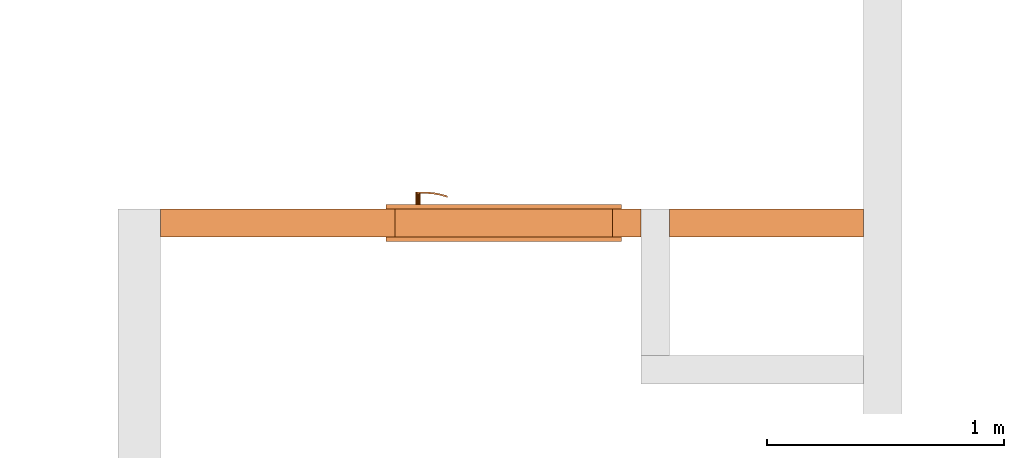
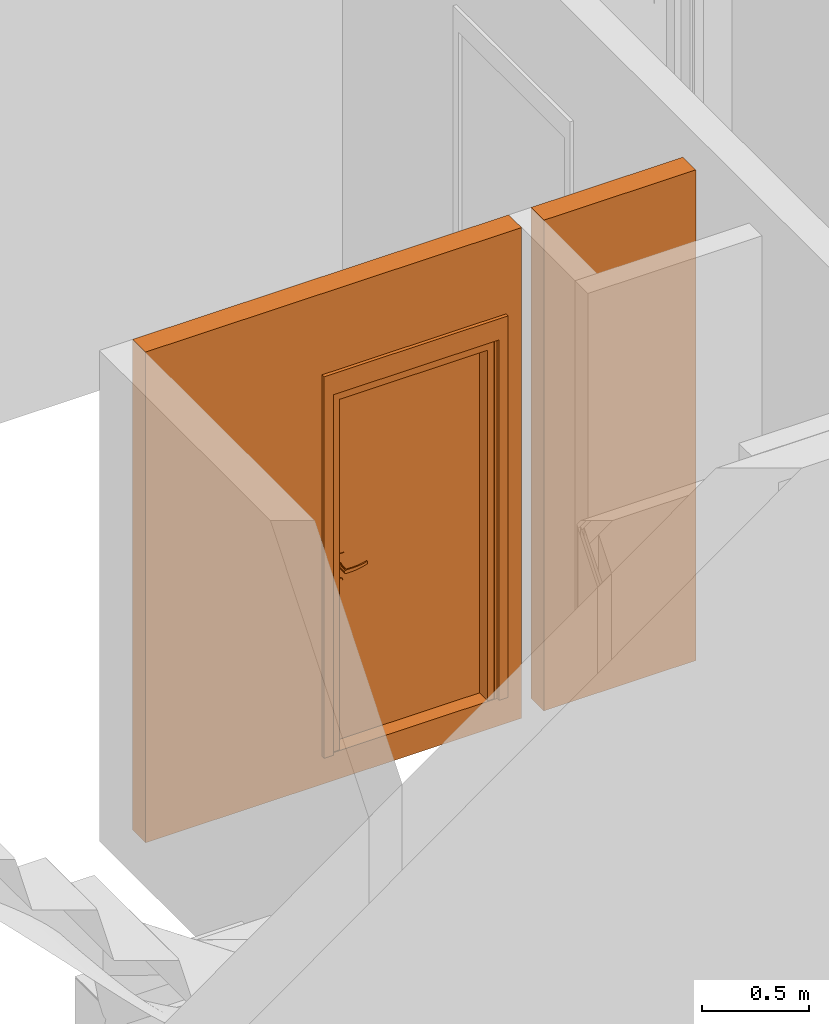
# One storey, part 35 of 61: 2 proxies, 1 opening.
"""IFC2X3 building model written with IfcOpenShell, lengths in millimetres."""

from ifc_helpers import new_model, entity, si_unit, converted_unit, derived_unit, money_unit, direction, frame, origin_with_axes, origin_2d_with_axis, place, context, subcontext, project, spatial, rectangle, extrude, open_shell, faceted_brep, surface_model, source, transform, mapped, material, type_object, element, fill, save


model = new_model("IFC2X3")

# Units and contexts
model_context = context("Model", 3, precision=0.01, world=origin_with_axes(), true_north=direction((0.34421633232, 0.938890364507)))
body_context = subcontext(model_context, "Body", "Model", "MODEL_VIEW")
ifc_project = project(units=[si_unit("LENGTHUNIT", "METRE", prefix="MILLI"), si_unit("AREAUNIT", "SQUARE_METRE"), si_unit("VOLUMEUNIT", "CUBIC_METRE"), converted_unit("PLANEANGLEUNIT", "DEGREE", entity("IfcPlaneAngleMeasure", 0.0174532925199), si_unit("PLANEANGLEUNIT", "RADIAN"), dimensions=[0, 0, 0, 0, 0, 0, 0]), si_unit("SOLIDANGLEUNIT", "STERADIAN"), money_unit("USD"), converted_unit("TIMEUNIT", "Year", entity("IfcTimeMeasure", 31556926.0), si_unit("TIMEUNIT", "SECOND"), dimensions=[0, 0, 1, 0, 0, 0, 0]), si_unit("MASSUNIT", "GRAM", prefix="KILO"), si_unit("THERMODYNAMICTEMPERATUREUNIT", "DEGREE_CELSIUS"), si_unit("LUMINOUSINTENSITYUNIT", "LUMEN"), si_unit("ENERGYUNIT", "JOULE", prefix="MEGA"), derived_unit("THERMALCONDUCTANCEUNIT", [(si_unit("POWERUNIT", "WATT"), 1), (si_unit("LENGTHUNIT", "METRE"), -1), (si_unit("THERMODYNAMICTEMPERATUREUNIT", "KELVIN"), -1)]), derived_unit("SPECIFICHEATCAPACITYUNIT", [(si_unit("ENERGYUNIT", "JOULE"), 1), (si_unit("MASSUNIT", "GRAM", prefix="KILO"), -1), (si_unit("THERMODYNAMICTEMPERATUREUNIT", "KELVIN"), -1)]), derived_unit("MASSDENSITYUNIT", [(si_unit("MASSUNIT", "GRAM", prefix="KILO"), 1), (si_unit("VOLUMEUNIT", "CUBIC_METRE"), -1)])], contexts=[model_context])

# Site, building, storey
site_placement = place(None, origin_with_axes())
site = spatial("IfcSite", under=ifc_project, at=site_placement, Name="USTRONIE MORSKIE", CompositionType="ELEMENT")
building_placement = place(site_placement, origin_with_axes())
building = spatial("IfcBuilding", under=site, at=building_placement, Name="Budynek", CompositionType="ELEMENT")
storey_placement = place(building_placement, frame((0.0, 0.0, 13000.0), z_axis=(0.0, 0.0, 1.0), x_axis=(1.0, 0.0, 0.0)))
storey = spatial("IfcBuildingStorey", under=building, at=storey_placement, Name="PIĘTRO 4", CompositionType="ELEMENT", Elevation=13000.0)

# Proxies, opening
ifc_material = material(Name="Bloczki silikatowe")
building_element_proxy_type_1 = type_object("IfcBuildingElementProxyType", Name="Bloczki silikatowe 120", PredefinedType="NOTDEFINED")
proxy_1_placement = place(storey_placement, frame((416017.920919, 741361.180377, -160.0), z_axis=(0.0, 0.0, 1.0), x_axis=(-1.0, 0.0, 0.0)))
proxy_1 = element("IfcBuildingElementProxy", 1, at=proxy_1_placement, inside=storey, type_object=building_element_proxy_type_1, material=ifc_material, Name="SW-04", context=body_context, shape_type="Brep", body=[
    faceted_brep([(900.001794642, 59.9999999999, 0.0), (900.001794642, -59.9999999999, 0.0), (80.0, -59.9999999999, 0.0), (80.0, 59.9999999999, 0.0), (900.001794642, 59.9999999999, 2800.0), (900.001794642, -59.9999999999, 2800.0), (80.0, -59.9999999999, 2800.0), (80.0, 59.9999999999, 2800.0)], [[[0, 1, 2, 3]], [[1, 0, 4, 5]], [[1, 5, 6, 2]], [[7, 3, 2, 6]], [[4, 0, 3, 7]], [[5, 4, 7, 6]]]),
    faceted_brep([(3049.9699557, 59.9999999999, 0.0), (3049.9699557, -59.9999999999, 0.0), (1020.00179464, -59.9999999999, 0.0), (1020.00179464, 59.9999999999, 0.0), (3049.9699557, 59.9999999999, 2800.0), (3049.9699557, -59.9999999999, 2800.0), (1020.00179464, -59.9999999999, 2800.0), (1020.00179464, 59.9999999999, 2800.0)], [[[0, 1, 2, 3]], [[1, 0, 4, 5]], [[1, 5, 6, 2]], [[7, 3, 2, 6]], [[4, 0, 3, 7]], [[5, 4, 7, 6]]]),
])
opening_placement = place(proxy_1_placement, frame((1600.00179464, 0.0, 160.0), z_axis=(0.0, 0.0, 1.0), x_axis=(1.0, 0.0, 0.0)))
opening = element("IfcOpeningElement", 2, at=opening_placement, cuts=proxy_1, Name="Dw.4", context=body_context, shape_type="SweptSolid", body=[
    extrude(rectangle(XDim=920.0, YDim=2070.0, at=origin_2d_with_axis()), frame((0.0, 120.0, 1035.0), z_axis=(0.0, -1.0, 0.0), x_axis=(-1.0, 0.0, 0.0)), (0.0, 0.0, 1.0), 360.0),
    extrude(rectangle(XDim=994.0, YDim=2177.0, at=origin_2d_with_axis()), frame((0.0, 60.0000000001, 1088.5), z_axis=(0.0, -1.0, 0.0), x_axis=(-1.0, 0.0, 0.0)), (0.0, 0.0, -1.0), 120.0),
    extrude(rectangle(XDim=994.0, YDim=2177.0, at=origin_2d_with_axis()), frame((0.0, -59.9999999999, 1088.5), z_axis=(0.0, 1.0, 0.0), x_axis=(-1.0, 0.0, 0.0)), (0.0, 0.0, -1.0), 120.0),
])
building_element_proxy_type_2 = type_object("IfcBuildingElementProxyType", Name="Drzwi 23", PredefinedType="NOTDEFINED")
shared_shape = source(origin_with_axes(), body_context, "Body", "SurfaceModel", [
    faceted_brep([(-460.0, -115.0, 0.0), (-435.0, -115.0, 0.0), (-435.0, -120.0, 0.0), (-460.0, -120.0, 0.0), (-460.0, -115.0, 2070.0), (-435.0, -115.0, 2045.0), (-435.0, -120.0, 2045.0), (-460.0, -120.0, 2070.0)], [[[0, 1, 2, 3]], [[0, 4, 5, 1]], [[1, 5, 6, 2]], [[3, 2, 6, 7]], [[4, 0, 3, 7]], [[5, 4, 7, 6]]]),
    faceted_brep([(460.0, -115.0, 2070.0), (435.0, -115.0, 2045.0), (435.0, -120.0, 2045.0), (460.0, -120.0, 2070.0), (460.0, -115.0, 0.0), (435.0, -115.0, 0.0), (435.0, -120.0, 0.0), (460.0, -120.0, 0.0)], [[[0, 1, 2, 3]], [[0, 4, 5, 1]], [[1, 5, 6, 2]], [[3, 2, 6, 7]], [[4, 0, 3, 7]], [[5, 4, 7, 6]]]),
    faceted_brep([(-435.0, -115.0, 2045.0), (435.0, -115.0, 2045.0), (435.0, -120.0, 2045.0), (-435.0, -120.0, 2045.0), (-460.0, -115.0, 2070.0), (460.0, -115.0, 2070.0), (460.0, -120.0, 2070.0), (-460.0, -120.0, 2070.0)], [[[0, 1, 2, 3]], [[0, 4, 5, 1]], [[1, 5, 6, 2]], [[3, 2, 6, 7]], [[4, 0, 3, 7]], [[5, 4, 7, 6]]]),
    faceted_brep([(-497.0, -139.0, 0.0), (-497.0, -120.0, 0.0), (-447.0, -120.0, 0.0), (-447.0, -139.0, 0.0), (-497.0, -139.0, 2177.0), (-497.0, -120.0, 2177.0), (-447.0, -120.0, 2057.0), (-447.0, -139.0, 2057.0)], [[[0, 1, 2, 3]], [[4, 5, 1, 0]], [[1, 5, 6, 2]], [[3, 2, 6, 7]], [[0, 3, 7, 4]], [[7, 6, 5, 4]]]),
    faceted_brep([(497.0, -139.0, 2177.0), (497.0, -120.0, 2177.0), (447.0, -120.0, 2057.0), (447.0, -139.0, 2057.0), (497.0, -139.0, 0.0), (497.0, -120.0, 0.0), (447.0, -120.0, 0.0), (447.0, -139.0, 0.0)], [[[0, 1, 2, 3]], [[4, 5, 1, 0]], [[1, 5, 6, 2]], [[3, 2, 6, 7]], [[0, 3, 7, 4]], [[7, 6, 5, 4]]]),
    faceted_brep([(-497.0, -139.0, 2177.0), (-497.0, -120.0, 2177.0), (-447.0, -120.0, 2057.0), (-447.0, -139.0, 2057.0), (497.0, -139.0, 2177.0), (497.0, -120.0, 2177.0), (447.0, -120.0, 2057.0), (447.0, -139.0, 2057.0)], [[[0, 1, 2, 3]], [[4, 5, 1, 0]], [[1, 5, 6, 2]], [[3, 2, 6, 7]], [[0, 3, 7, 4]], [[7, 6, 5, 4]]]),
    faceted_brep([(-497.0, 19.0, 0.0), (-447.0, 19.0, 0.0), (-447.0, 0.0, 0.0), (-497.0, 0.0, 0.0), (-497.0, 19.0, 2177.0), (-447.0, 19.0, 2057.0), (-447.0, 0.0, 2057.0), (-497.0, 0.0, 2177.0)], [[[0, 1, 2, 3]], [[0, 4, 5, 1]], [[1, 5, 6, 2]], [[3, 2, 6, 7]], [[4, 0, 3, 7]], [[5, 4, 7, 6]]]),
    faceted_brep([(497.0, 19.0, 2177.0), (447.0, 19.0, 2057.0), (447.0, 0.0, 2057.0), (497.0, 0.0, 2177.0), (497.0, 19.0, 0.0), (447.0, 19.0, 0.0), (447.0, 0.0, 0.0), (497.0, 0.0, 0.0)], [[[0, 1, 2, 3]], [[0, 4, 5, 1]], [[1, 5, 6, 2]], [[3, 2, 6, 7]], [[4, 0, 3, 7]], [[5, 4, 7, 6]]]),
    faceted_brep([(-497.0, 19.0, 2177.0), (-447.0, 19.0, 2057.0), (-447.0, 0.0, 2057.0), (-497.0, 0.0, 2177.0), (497.0, 19.0, 2177.0), (447.0, 19.0, 2057.0), (447.0, 0.0, 2057.0), (497.0, 0.0, 2177.0)], [[[0, 1, 2, 3]], [[0, 4, 5, 1]], [[1, 5, 6, 2]], [[3, 2, 6, 7]], [[4, 0, 3, 7]], [[5, 4, 7, 6]]]),
    faceted_brep([(-400.0, -40.0, 0.0), (-400.0, -40.0, 2000.0), (-400.0, -115.0, 2000.0), (-400.0, -115.0, 0.0), (-412.0, -40.0, 2000.0), (-412.0, -40.0, 0.0), (-412.0, 0.0, 2000.0), (-460.0, 0.0, 2000.0), (-460.0, -115.0, 2000.0), (-460.0, -115.0, 0.0), (-460.0, 0.0, 0.0), (-412.0, 0.0, 0.0)], [[[0, 1, 2, 3]], [[4, 1, 0, 5]], [[4, 6, 7, 8, 2, 1]], [[3, 2, 8, 9]], [[5, 0, 3, 9, 10, 11]], [[6, 4, 5, 11]], [[6, 11, 10, 7]], [[10, 9, 8, 7]]]),
    faceted_brep([(412.0, -40.0, 2000.0), (400.0, -40.0, 2000.0), (400.0, -115.0, 2000.0), (460.0, -115.0, 2000.0), (460.0, 0.0, 2000.0), (412.0, 0.0, 2000.0), (412.0, -40.0, 0.0), (400.0, -40.0, 0.0), (400.0, -115.0, 0.0), (460.0, -115.0, 0.0), (460.0, 0.0, 0.0), (412.0, 0.0, 0.0)], [[[0, 1, 2, 3, 4, 5]], [[1, 0, 6, 7]], [[1, 7, 8, 2]], [[3, 2, 8, 9]], [[4, 3, 9, 10]], [[11, 5, 4, 10]], [[0, 5, 11, 6]], [[6, 11, 10, 9, 8, 7]]]),
    faceted_brep([(-412.0, 0.0, 2012.0), (-412.0, 0.0, 2000.0), (-460.0, 0.0, 2000.0), (-460.0, 0.0, 2070.0), (460.0, 0.0, 2070.0), (460.0, 0.0, 2000.0), (412.0, 0.0, 2000.0), (412.0, 0.0, 2012.0), (-412.0, -40.0, 2012.0), (-412.0, -40.0, 2000.0), (-400.0, -40.0, 2000.0), (-400.0, -115.0, 2000.0), (-460.0, -115.0, 2000.0), (-460.0, -115.0, 2070.0), (460.0, -115.0, 2070.0), (460.0, -115.0, 2000.0), (412.0, -40.0, 2000.0), (400.0, -115.0, 2000.0), (400.0, -40.0, 2000.0), (412.0, -40.0, 2012.0)], [[[0, 1, 2, 3, 4, 5, 6, 7]], [[1, 0, 8, 9]], [[9, 10, 11, 12, 2, 1]], [[2, 12, 13, 3]], [[3, 13, 14, 4]], [[4, 14, 15, 5]], [[16, 6, 5, 15, 17, 18]], [[7, 6, 16, 19]], [[0, 7, 19, 8]], [[16, 18, 10, 9, 8, 19]], [[10, 18, 17, 11]], [[17, 15, 14, 13, 12, 11]]]),
    faceted_brep([(-390.5, -40.0, 1060.0), (-390.5, -43.0, 1060.0), (-333.5, -43.0, 1060.0), (-333.5, -40.0, 1060.0), (-390.5, -40.0, 870.0), (-390.5, -43.0, 870.0), (-333.5, -43.0, 870.0), (-333.5, -40.0, 870.0)], [[[0, 1, 2, 3]], [[4, 5, 1, 0]], [[1, 5, 6, 2]], [[3, 2, 6, 7]], [[0, 3, 7, 4]], [[7, 6, 5, 4]]]),
    faceted_brep([(-362.0, -104.0, 990.0), (-362.0, -111.0, 990.0), (-367.0, -111.0, 991.339745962), (-367.0, -104.0, 991.339745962), (-337.0, -104.0, 990.0), (-337.0, -111.0, 990.0), (-337.0, -111.0, 1010.0), (-362.0, -111.0, 1010.0), (-367.0, -111.0, 1008.66025404), (-370.660254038, -111.0, 1005.0), (-372.0, -111.0, 1000.0), (-370.660254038, -111.0, 995.0), (-370.660254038, -104.0, 995.0), (-372.0, -104.0, 1000.0), (-370.660254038, -104.0, 1005.0), (-367.0, -104.0, 1008.66025404), (-362.0, -104.0, 1010.0), (-337.0, -104.0, 1010.0)], [[[0, 1, 2, 3]], [[4, 5, 1, 0]], [[1, 5, 6, 7, 8, 9, 10, 11, 2]], [[3, 2, 11, 12]], [[0, 3, 12, 13, 14, 15, 16, 17, 4]], [[17, 6, 5, 4]], [[16, 7, 6, 17]], [[15, 8, 7, 16]], [[14, 9, 8, 15]], [[13, 10, 9, 14]], [[12, 11, 10, 13]]]),
    surface_model("IfcShellBasedSurfaceModel", [(-337.0, -104.0, 1010.0), (-323.596090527, -111.0, 1009.60730092), (-323.901717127, -104.0, 1009.60730092), (-337.0, -111.0, 1010.0), (-296.890283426, -108.663544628, 1008.82190275), (-323.901717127, -104.0, 990.392699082), (-337.0, -104.0, 990.0), (-337.0, -111.0, 990.0), (-323.596090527, -111.0, 990.392699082), (-296.890283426, -108.663544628, 991.178097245), (-297.804837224, -101.716818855, 1008.82190275), (-297.804837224, -101.716818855, 991.178097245), (-270.489735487, -104.008415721, 991.963495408), (-270.489735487, -104.008415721, 1008.03650459), (-272.006256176, -97.1678329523, 1008.03650459), (-272.006256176, -97.1678329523, 991.963495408), (-244.59537082, -97.0700416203, 992.748893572), (-244.59537082, -97.0700416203, 1007.25110643), (-246.702316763, -90.3876628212, 1007.25110643), (-246.702316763, -90.3876628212, 992.748893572), (-236.538795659, -94.1376880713, 993.0), (-236.538795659, -94.1376880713, 1007.0), (-238.829442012, -87.5221707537, 1007.0), (-238.829442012, -87.5221707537, 993.0)], [open_shell([[[0, 1, 2]], [[0, 3, 1]], [[2, 1, 4]], [[0, 2, 5, 6]], [[3, 7, 8, 1]], [[1, 8, 9, 4]], [[2, 4, 10]], [[2, 10, 11, 5]], [[5, 7, 6]], [[5, 8, 7]], [[11, 9, 8]], [[4, 9, 12, 13]], [[10, 4, 13]], [[10, 14, 15, 11]], [[11, 8, 5]], [[15, 9, 11]], [[15, 12, 9]], [[13, 12, 16, 17]], [[10, 13, 14]], [[14, 18, 19, 15]], [[19, 12, 15]], [[19, 16, 12]], [[17, 16, 20, 21]], [[14, 13, 17]], [[14, 17, 18]], [[18, 22, 23, 19]], [[23, 16, 19]], [[23, 20, 16]], [[22, 21, 20, 23]], [[18, 17, 21]], [[18, 21, 22]]])]),
    faceted_brep([(-351.607695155, -53.0, 994.0), (-350.741669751, -43.0, 993.5), (-349.0, -43.0, 1000.0), (-350.0, -53.0, 1000.0), (-356.0, -53.0, 989.607695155), (-355.5, -43.0, 988.741669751), (-362.0, -43.0, 987.0), (-368.5, -43.0, 988.741669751), (-373.258330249, -43.0, 993.5), (-375.0, -43.0, 1000.0), (-373.258330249, -43.0, 1006.5), (-368.5, -43.0, 1011.25833025), (-362.0, -43.0, 1013.0), (-355.5, -43.0, 1011.25833025), (-350.741669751, -43.0, 1006.5), (-351.607695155, -53.0, 1006.0), (-356.0, -53.0, 1010.39230485), (-362.0, -53.0, 1012.0), (-368.0, -53.0, 1010.39230485), (-372.392304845, -53.0, 1006.0), (-374.0, -53.0, 1000.0), (-372.392304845, -53.0, 994.0), (-368.0, -53.0, 989.607695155), (-362.0, -53.0, 988.0)], [[[0, 1, 2, 3]], [[4, 5, 1, 0]], [[2, 1, 5, 6, 7, 8, 9, 10, 11, 12, 13, 14]], [[3, 2, 14, 15]], [[3, 15, 16, 17, 18, 19, 20, 21, 22, 23, 4, 0]], [[23, 6, 5, 4]], [[22, 7, 6, 23]], [[21, 8, 7, 22]], [[20, 9, 8, 21]], [[19, 10, 9, 20]], [[18, 11, 10, 19]], [[17, 12, 11, 18]], [[16, 13, 12, 17]], [[15, 14, 13, 16]]]),
    faceted_brep([(-344.679491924, -47.0, 895.0), (-342.947441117, -43.0, 894.0), (-340.0, -43.0, 905.0), (-342.0, -47.0, 905.0), (-352.0, -47.0, 887.679491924), (-351.0, -43.0, 885.947441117), (-362.0, -43.0, 883.0), (-373.0, -43.0, 885.947441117), (-381.052558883, -43.0, 894.0), (-384.0, -43.0, 905.0), (-381.052558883, -43.0, 916.0), (-373.0, -43.0, 924.052558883), (-362.0, -43.0, 927.0), (-351.0, -43.0, 924.052558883), (-342.947441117, -43.0, 916.0), (-344.679491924, -47.0, 915.0), (-352.0, -47.0, 922.320508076), (-362.0, -47.0, 925.0), (-372.0, -47.0, 922.320508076), (-379.320508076, -47.0, 915.0), (-382.0, -47.0, 905.0), (-379.320508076, -47.0, 895.0), (-372.0, -47.0, 887.679491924), (-362.0, -47.0, 885.0)], [[[0, 1, 2, 3]], [[4, 5, 1, 0]], [[2, 1, 5, 6, 7, 8, 9, 10, 11, 12, 13, 14]], [[3, 2, 14, 15]], [[3, 15, 16, 17, 18, 19, 20, 21, 22, 23, 4, 0]], [[23, 6, 5, 4]], [[22, 7, 6, 23]], [[21, 8, 7, 22]], [[20, 9, 8, 21]], [[19, 10, 9, 20]], [[18, 11, 10, 19]], [[17, 12, 11, 18]], [[16, 13, 12, 17]], [[15, 14, 13, 16]]]),
    faceted_brep([(-357.050252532, -49.0, 909.050252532), (-356.343145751, -47.0, 908.343145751), (-354.0, -47.0, 914.0), (-355.0, -49.0, 914.0), (-362.0, -49.0, 907.0), (-362.0, -47.0, 906.0), (-367.656854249, -47.0, 908.343145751), (-370.0, -47.0, 914.0), (-367.656854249, -47.0, 919.656854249), (-362.0, -47.0, 922.0), (-356.343145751, -47.0, 919.656854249), (-357.050252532, -49.0, 918.949747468), (-362.0, -49.0, 921.0), (-366.949747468, -49.0, 918.949747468), (-369.0, -49.0, 914.0), (-366.949747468, -49.0, 909.050252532)], [[[0, 1, 2, 3]], [[4, 5, 1, 0]], [[2, 1, 5, 6, 7, 8, 9, 10]], [[3, 2, 10, 11]], [[3, 11, 12, 13, 14, 15, 4, 0]], [[15, 6, 5, 4]], [[14, 7, 6, 15]], [[13, 8, 7, 14]], [[12, 9, 8, 13]], [[11, 10, 9, 12]]]),
    faceted_brep([(-362.0, -53.0, 1010.0), (-362.0, -104.0, 1010.0), (-357.0, -104.0, 1008.66025404), (-357.0, -53.0, 1008.66025404), (-367.0, -53.0, 1008.66025404), (-367.0, -104.0, 1008.66025404), (-370.660254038, -104.0, 1005.0), (-372.0, -104.0, 1000.0), (-370.660254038, -104.0, 995.0), (-367.0, -104.0, 991.339745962), (-362.0, -104.0, 990.0), (-357.0, -104.0, 991.339745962), (-353.339745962, -104.0, 995.0), (-352.0, -104.0, 1000.0), (-353.339745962, -104.0, 1005.0), (-353.339745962, -53.0, 1005.0), (-352.0, -53.0, 1000.0), (-353.339745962, -53.0, 995.0), (-357.0, -53.0, 991.339745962), (-362.0, -53.0, 990.0), (-367.0, -53.0, 991.339745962), (-370.660254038, -53.0, 995.0), (-372.0, -53.0, 1000.0), (-370.660254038, -53.0, 1005.0)], [[[0, 1, 2, 3]], [[4, 5, 1, 0]], [[1, 5, 6, 7, 8, 9, 10, 11, 12, 13, 14, 2]], [[3, 2, 14, 15]], [[0, 3, 15, 16, 17, 18, 19, 20, 21, 22, 23, 4]], [[23, 6, 5, 4]], [[22, 7, 6, 23]], [[21, 8, 7, 22]], [[20, 9, 8, 21]], [[19, 10, 9, 20]], [[18, 11, 10, 19]], [[17, 12, 11, 18]], [[16, 13, 12, 17]], [[15, 14, 13, 16]]]),
    faceted_brep([(-390.5, 0.0, 1060.0), (-333.5, 0.0, 1060.0), (-333.5, 3.0, 1060.0), (-390.5, 3.0, 1060.0), (-390.5, 0.0, 870.0), (-333.5, 0.0, 870.0), (-333.5, 3.0, 870.0), (-390.5, 3.0, 870.0)], [[[0, 1, 2, 3]], [[0, 4, 5, 1]], [[1, 5, 6, 2]], [[3, 2, 6, 7]], [[4, 0, 3, 7]], [[5, 4, 7, 6]]]),
    faceted_brep([(-362.0, 64.0, 990.0), (-367.0, 64.0, 991.339745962), (-367.0, 71.0, 991.339745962), (-362.0, 71.0, 990.0), (-337.0, 64.0, 990.0), (-337.0, 64.0, 1010.0), (-362.0, 64.0, 1010.0), (-367.0, 64.0, 1008.66025404), (-370.660254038, 64.0, 1005.0), (-372.0, 64.0, 1000.0), (-370.660254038, 64.0, 995.0), (-370.660254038, 71.0, 995.0), (-372.0, 71.0, 1000.0), (-370.660254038, 71.0, 1005.0), (-367.0, 71.0, 1008.66025404), (-362.0, 71.0, 1010.0), (-337.0, 71.0, 1010.0), (-337.0, 71.0, 990.0)], [[[0, 1, 2, 3]], [[0, 4, 5, 6, 7, 8, 9, 10, 1]], [[1, 10, 11, 2]], [[3, 2, 11, 12, 13, 14, 15, 16, 17]], [[4, 0, 3, 17]], [[5, 4, 17, 16]], [[6, 5, 16, 15]], [[7, 6, 15, 14]], [[8, 7, 14, 13]], [[9, 8, 13, 12]], [[10, 9, 12, 11]]]),
    surface_model("IfcShellBasedSurfaceModel", [(-337.0, 64.0, 1010.0), (-323.901717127, 64.0, 1009.60730092), (-323.596090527, 71.0, 1009.60730092), (-337.0, 64.0, 990.0), (-323.901717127, 64.0, 990.392699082), (-296.890283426, 68.6635446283, 1008.82190275), (-337.0, 71.0, 1010.0), (-337.0, 71.0, 990.0), (-297.804837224, 61.716818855, 991.178097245), (-297.804837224, 61.716818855, 1008.82190275), (-296.890283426, 68.6635446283, 991.178097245), (-323.596090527, 71.0, 990.392699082), (-272.006256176, 57.1678329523, 991.963495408), (-272.006256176, 57.1678329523, 1008.03650459), (-270.489735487, 64.0084157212, 1008.03650459), (-270.489735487, 64.0084157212, 991.963495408), (-246.702316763, 50.3876628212, 992.748893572), (-246.702316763, 50.3876628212, 1007.25110643), (-244.59537082, 57.0700416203, 1007.25110643), (-244.59537082, 57.0700416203, 992.748893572), (-238.829442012, 47.5221707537, 993.0), (-238.829442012, 47.5221707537, 1007.0), (-236.538795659, 54.1376880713, 1007.0), (-236.538795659, 54.1376880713, 993.0)], [open_shell([[[0, 1, 2]], [[0, 3, 4, 1]], [[1, 5, 2]], [[0, 2, 6]], [[4, 3, 7]], [[1, 4, 8, 9]], [[1, 9, 5]], [[2, 5, 10, 11]], [[6, 2, 11, 7]], [[4, 7, 11]], [[8, 4, 11]], [[9, 8, 12, 13]], [[9, 14, 5]], [[5, 14, 15, 10]], [[8, 11, 10]], [[12, 8, 10]], [[13, 12, 16, 17]], [[9, 13, 14]], [[14, 18, 19, 15]], [[12, 10, 15]], [[16, 12, 15]], [[17, 16, 20, 21]], [[13, 17, 18]], [[13, 18, 14]], [[18, 22, 23, 19]], [[16, 15, 19]], [[20, 16, 19]], [[21, 20, 23, 22]], [[17, 21, 22]], [[17, 22, 18]], [[20, 19, 23]]])]),
    faceted_brep([(-351.607695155, 13.0, 994.0), (-350.0, 13.0, 1000.0), (-349.0, 3.0, 1000.0), (-350.741669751, 3.0, 993.5), (-356.0, 13.0, 989.607695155), (-362.0, 13.0, 988.0), (-368.0, 13.0, 989.607695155), (-372.392304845, 13.0, 994.0), (-374.0, 13.0, 1000.0), (-372.392304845, 13.0, 1006.0), (-368.0, 13.0, 1010.39230485), (-362.0, 13.0, 1012.0), (-356.0, 13.0, 1010.39230485), (-351.607695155, 13.0, 1006.0), (-350.741669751, 3.0, 1006.5), (-355.5, 3.0, 1011.25833025), (-362.0, 3.0, 1013.0), (-368.5, 3.0, 1011.25833025), (-373.258330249, 3.0, 1006.5), (-375.0, 3.0, 1000.0), (-373.258330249, 3.0, 993.5), (-368.5, 3.0, 988.741669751), (-362.0, 3.0, 987.0), (-355.5, 3.0, 988.741669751)], [[[0, 1, 2, 3]], [[1, 0, 4, 5, 6, 7, 8, 9, 10, 11, 12, 13]], [[1, 13, 14, 2]], [[2, 14, 15, 16, 17, 18, 19, 20, 21, 22, 23, 3]], [[4, 0, 3, 23]], [[5, 4, 23, 22]], [[6, 5, 22, 21]], [[7, 6, 21, 20]], [[8, 7, 20, 19]], [[9, 8, 19, 18]], [[10, 9, 18, 17]], [[11, 10, 17, 16]], [[12, 11, 16, 15]], [[13, 12, 15, 14]]]),
    faceted_brep([(-344.679491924, 7.0, 895.0), (-342.0, 7.0, 905.0), (-340.0, 3.0, 905.0), (-342.947441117, 3.0, 894.0), (-352.0, 7.0, 887.679491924), (-362.0, 7.0, 885.0), (-372.0, 7.0, 887.679491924), (-379.320508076, 7.0, 895.0), (-382.0, 7.0, 905.0), (-379.320508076, 7.0, 915.0), (-372.0, 7.0, 922.320508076), (-362.0, 7.0, 925.0), (-352.0, 7.0, 922.320508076), (-344.679491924, 7.0, 915.0), (-342.947441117, 3.0, 916.0), (-351.0, 3.0, 924.052558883), (-362.0, 3.0, 927.0), (-373.0, 3.0, 924.052558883), (-381.052558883, 3.0, 916.0), (-384.0, 3.0, 905.0), (-381.052558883, 3.0, 894.0), (-373.0, 3.0, 885.947441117), (-362.0, 3.0, 883.0), (-351.0, 3.0, 885.947441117)], [[[0, 1, 2, 3]], [[1, 0, 4, 5, 6, 7, 8, 9, 10, 11, 12, 13]], [[1, 13, 14, 2]], [[2, 14, 15, 16, 17, 18, 19, 20, 21, 22, 23, 3]], [[4, 0, 3, 23]], [[5, 4, 23, 22]], [[6, 5, 22, 21]], [[7, 6, 21, 20]], [[8, 7, 20, 19]], [[9, 8, 19, 18]], [[10, 9, 18, 17]], [[11, 10, 17, 16]], [[12, 11, 16, 15]], [[13, 12, 15, 14]]]),
    faceted_brep([(-357.050252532, 9.0, 909.050252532), (-355.0, 9.0, 914.0), (-354.0, 7.0, 914.0), (-356.343145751, 7.0, 908.343145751), (-362.0, 9.0, 907.0), (-366.949747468, 9.0, 909.050252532), (-369.0, 9.0, 914.0), (-366.949747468, 9.0, 918.949747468), (-362.0, 9.0, 921.0), (-357.050252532, 9.0, 918.949747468), (-356.343145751, 7.0, 919.656854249), (-362.0, 7.0, 922.0), (-367.656854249, 7.0, 919.656854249), (-370.0, 7.0, 914.0), (-367.656854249, 7.0, 908.343145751), (-362.0, 7.0, 906.0)], [[[0, 1, 2, 3]], [[1, 0, 4, 5, 6, 7, 8, 9]], [[1, 9, 10, 2]], [[2, 10, 11, 12, 13, 14, 15, 3]], [[4, 0, 3, 15]], [[5, 4, 15, 14]], [[6, 5, 14, 13]], [[7, 6, 13, 12]], [[8, 7, 12, 11]], [[9, 8, 11, 10]]]),
    faceted_brep([(-362.0, 13.0, 1010.0), (-357.0, 13.0, 1008.66025404), (-357.0, 64.0, 1008.66025404), (-362.0, 64.0, 1010.0), (-367.0, 13.0, 1008.66025404), (-370.660254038, 13.0, 1005.0), (-372.0, 13.0, 1000.0), (-370.660254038, 13.0, 995.0), (-367.0, 13.0, 991.339745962), (-362.0, 13.0, 990.0), (-357.0, 13.0, 991.339745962), (-353.339745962, 13.0, 995.0), (-352.0, 13.0, 1000.0), (-353.339745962, 13.0, 1005.0), (-353.339745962, 64.0, 1005.0), (-352.0, 64.0, 1000.0), (-353.339745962, 64.0, 995.0), (-357.0, 64.0, 991.339745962), (-362.0, 64.0, 990.0), (-367.0, 64.0, 991.339745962), (-370.660254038, 64.0, 995.0), (-372.0, 64.0, 1000.0), (-370.660254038, 64.0, 1005.0), (-367.0, 64.0, 1008.66025404)], [[[0, 1, 2, 3]], [[0, 4, 5, 6, 7, 8, 9, 10, 11, 12, 13, 1]], [[1, 13, 14, 2]], [[3, 2, 14, 15, 16, 17, 18, 19, 20, 21, 22, 23]], [[4, 0, 3, 23]], [[5, 4, 23, 22]], [[6, 5, 22, 21]], [[7, 6, 21, 20]], [[8, 7, 20, 19]], [[9, 8, 19, 18]], [[10, 9, 18, 17]], [[11, 10, 17, 16]], [[12, 11, 16, 15]], [[13, 12, 15, 14]]]),
    faceted_brep([(412.0, 0.0, 0.0), (412.0, -40.0, 0.0), (-412.0, -40.0, 0.0), (-412.0, 0.0, 0.0), (412.0, 0.0, 2012.0), (412.0, -40.0, 2012.0), (-412.0, -40.0, 2012.0), (-412.0, 0.0, 2012.0)], [[[0, 1, 2, 3]], [[4, 5, 1, 0]], [[1, 5, 6, 2]], [[3, 2, 6, 7]], [[0, 3, 7, 4]], [[7, 6, 5, 4]]]),
])
proxy_2_placement = place(opening_placement, frame((400.0, 0.0, 0.0), z_axis=(0.0, 0.0, 1.0), x_axis=(-1.0, 0.0, 0.0)))
proxy_2 = element("IfcBuildingElementProxy", 3, at=proxy_2_placement, inside=storey, type_object=building_element_proxy_type_2, Name="Dw.4", context=body_context, shape_type="MappedRepresentation", body=[
    mapped(shared_shape, transform((400.0, 59.9999999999, 0.0))),
])
fill(opening, proxy_2)

save(model, "model.ifc")
